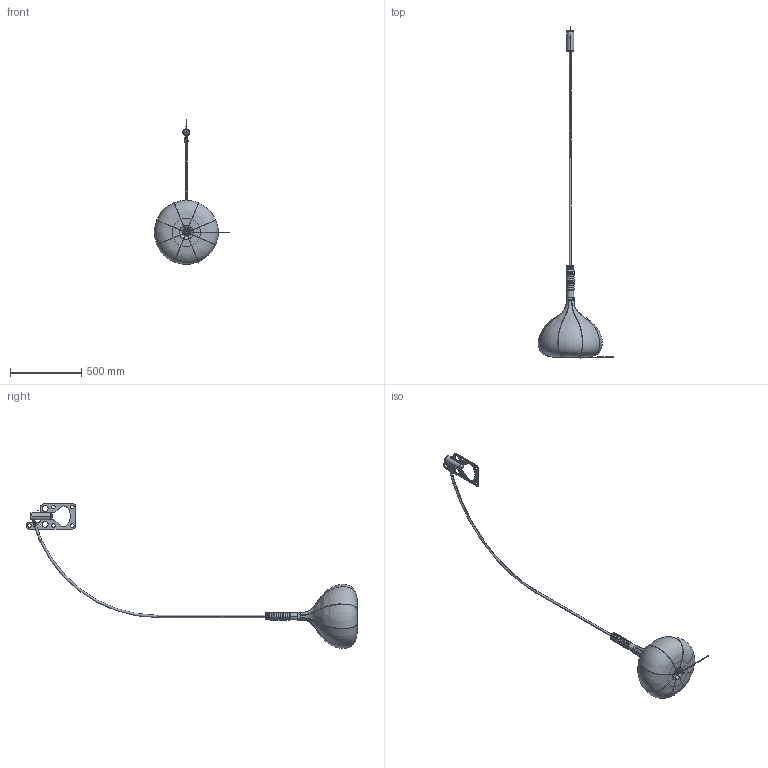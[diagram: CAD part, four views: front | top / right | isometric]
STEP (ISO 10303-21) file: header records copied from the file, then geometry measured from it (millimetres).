
FILE_DESCRIPTION (( 'STEP AP203' ), '1' );
FILE_NAME ('PTBUL-BO-3D.STEP', '2022-04-26T06:48:34', ( '' ), ( '' ), 'SwSTEP 2.0', 'SolidWorks 2021', '' );
FILE_SCHEMA (( 'CONFIG_CONTROL_DESIGN' ));
Products named in the file (1): PTBUL-BO-3D
Bounding box: 530.06 x 2331.89 x 1017.82 mm (x, y, z)
Surface area: 818739.8 mm2 (no closed solid volume)
Topology: 0 solids, 88 shells, 322 faces, 3225 edges, 2984 vertices
Faces by surface type: cylinder 168, plane 62, bspline 54, torus 22, cone 12, sphere 4
Entity records: 47698 total; most frequent: CARTESIAN_POINT 30250, ORIENTED_EDGE 3685, EDGE_CURVE 3220, VERTEX_POINT 2981, B_SPLINE_CURVE_WITH_KNOTS 2569, DIRECTION 1596, AXIS2_PLACEMENT_3D 680, EDGE_LOOP 533
